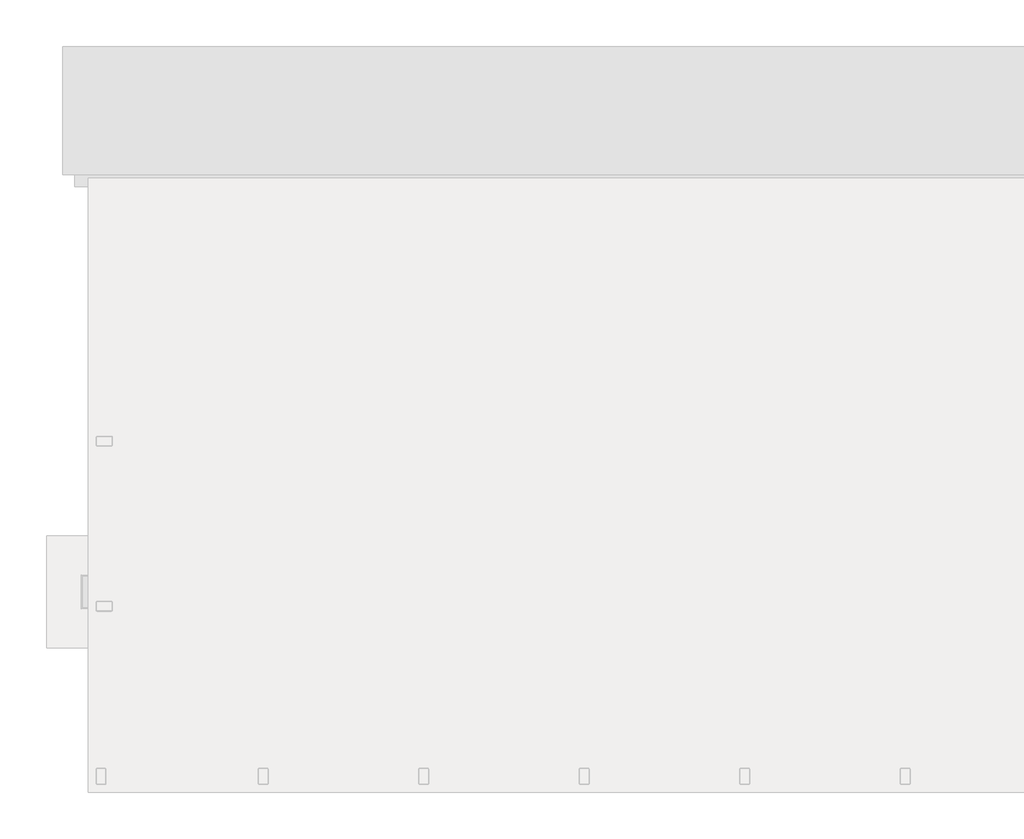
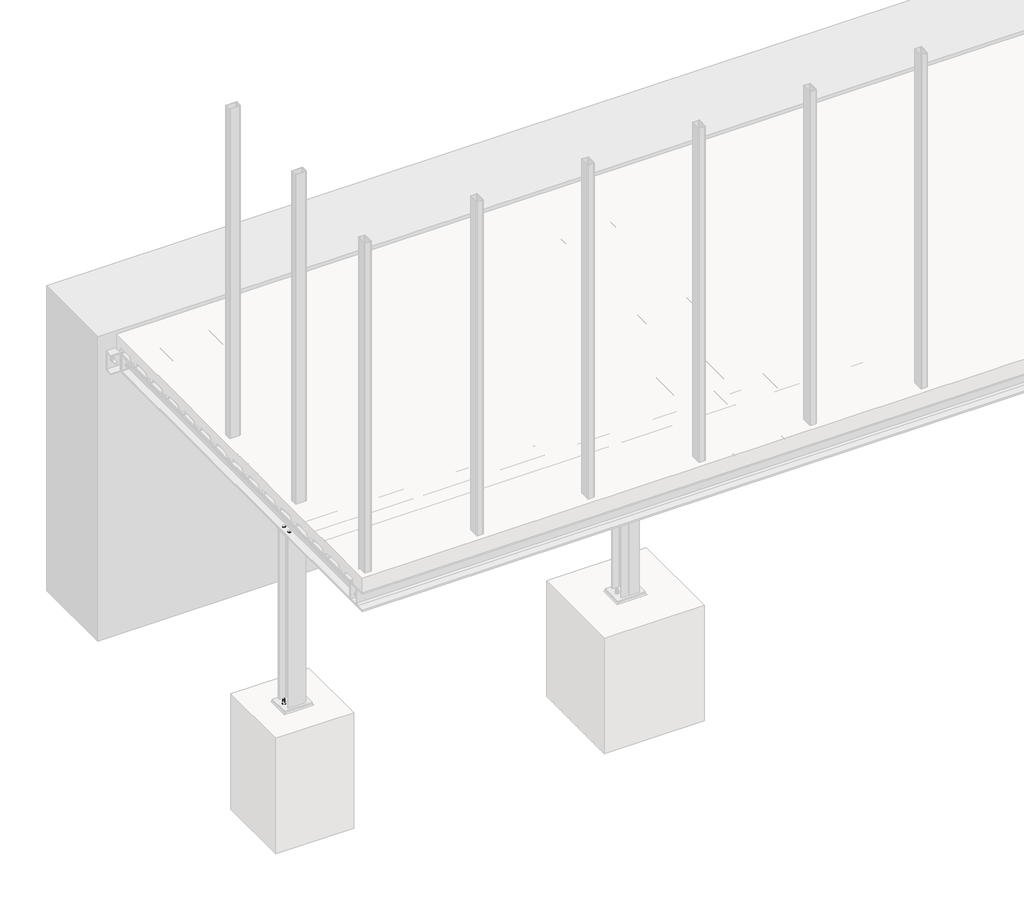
# One storey, part 20 of 36: 21 assemblies.
"""IFC4 building model written with IfcOpenShell, lengths in millimetres."""

from ifc_helpers import new_model, si_unit, point, frame, frame_2d, origin, place, context, project, spatial, polyline, circle_curve, trimmed, segment, composite_curve, outline, extrude, element, save

model = new_model("IFC4")

# Units and contexts
model_context = context("Model", 3, world=origin())
ifc_project = project(units=[si_unit("LENGTHUNIT", "METRE", prefix="MILLI")], contexts=[model_context])

# Site, building, storey
site = spatial("IfcSite", under=ifc_project)
building = spatial("IfcBuilding", under=site)
storey = spatial("IfcBuildingStorey", under=building, Name="Základy", Elevation=-1200.0)

# Assemblies
placement = place(None, origin())
element("IfcElementAssembly", 1, at=placement, inside=storey, context=model_context, shape_type="SweptSolid", body=[
    extrude(outline(composite_curve([segment(polyline([(3073.6, 60.0), (3026.4, 60.0)]), True, "CONTINUOUS"), segment(trimmed(circle_curve(frame_2d((3026.4, 66.4)), 6.4), [point((3026.4, 60.0))], [point((3020.0, 66.4))], False, "CARTESIAN"), True, "CONTINUOUS"), segment(polyline([(3020.0, 66.4), (3020.0, 153.6)]), True, "CONTINUOUS"), segment(trimmed(circle_curve(frame_2d((3026.4, 153.6)), 6.4), [point((3020.0, 153.6))], [point((3026.4, 160.0))], False, "CARTESIAN"), True, "CONTINUOUS"), segment(polyline([(3026.4, 160.0), (3073.6, 160.0)]), True, "CONTINUOUS"), segment(trimmed(circle_curve(frame_2d((3073.6, 153.6)), 6.4), [point((3073.6, 160.0))], [point((3080.0, 153.6))], False, "CARTESIAN"), True, "CONTINUOUS"), segment(polyline([(3080.0, 153.6), (3080.0, 66.4)]), True, "CONTINUOUS"), segment(trimmed(circle_curve(frame_2d((3073.6, 66.4)), 6.4), [point((3080.0, 66.4))], [point((3073.6, 60.0))], False, "CARTESIAN"), True, "CONTINUOUS")], self_intersect=False), holes=[composite_curve([segment(trimmed(circle_curve(frame_2d((3073.6, 66.4)), 3.2), [point((3073.6, 63.2))], [point((3076.8, 66.4))], True, "CARTESIAN"), True, "CONTINUOUS"), segment(polyline([(3076.8, 66.4), (3076.8, 153.6)]), True, "CONTINUOUS"), segment(trimmed(circle_curve(frame_2d((3073.6, 153.6)), 3.2), [point((3076.8, 153.6))], [point((3073.6, 156.8))], True, "CARTESIAN"), True, "CONTINUOUS"), segment(polyline([(3073.6, 156.8), (3026.4, 156.8)]), True, "CONTINUOUS"), segment(trimmed(circle_curve(frame_2d((3026.4, 153.6)), 3.2), [point((3026.4, 156.8))], [point((3023.2, 153.6))], True, "CARTESIAN"), True, "CONTINUOUS"), segment(polyline([(3023.2, 153.6), (3023.2, 66.4)]), True, "CONTINUOUS"), segment(trimmed(circle_curve(frame_2d((3026.4, 66.4)), 3.2), [point((3023.2, 66.4))], [point((3026.4, 63.2))], True, "CARTESIAN"), True, "CONTINUOUS"), segment(polyline([(3026.4, 63.2), (3073.6, 63.2)]), True, "CONTINUOUS")], self_intersect=False)]), frame((0.0, 0.0, -160.0), z_axis=(0.0, 0.0, 1.0), x_axis=(1.0, 0.0, 0.0)), (0.0, 0.0, 1.0), 3320.0),
])
element("IfcElementAssembly", 2, at=placement, inside=storey, context=model_context, shape_type="SweptSolid", body=[
    extrude(outline(polyline([(1802.7875602, -160.0099992), (1772.2875602, -111.5000008), (1637.6975638, -111.5000008), (1607.1975638, -160.0000008), (1552.7875754, -160.0000008), (1522.2875754, -111.5000008), (1387.6975715, -111.5000008), (1357.1975715, -160.0000008), (1302.7875697, -160.0000008), (1272.2875716, -111.5000008), (1137.6975638, -111.5000008), (1107.1975638, -160.0000008), (1052.7875602, -160.0000008), (1022.2875602, -111.5000008), (887.6975638, -111.5000008), (857.1975638, -160.0000008), (802.7875602, -160.0000008), (790.7375724, -139.4300002), (803.1975638, -159.2500008), (856.7875602, -159.2500008), (887.2875602, -110.7500008), (1022.6975638, -110.7500008), (1053.1975638, -159.2500008), (1106.7875754, -159.2500008), (1137.2875754, -110.7500008), (1272.6975715, -110.7500008), (1303.1975695, -159.2500008), (1356.7875716, -159.2500008), (1387.2875678, -110.7500008), (1522.6975638, -110.7500008), (1553.1975638, -159.2500008), (1606.7875602, -159.2500008), (1637.2875602, -110.7500008), (1772.6975638, -110.7500008), (1803.1975638, -159.2500008), (1839.9975821, -160.0000008), (1802.7875602, -160.0099992)])), frame((-40.0, 0.0, 0.0), z_axis=(1.0, 0.0, 0.0), x_axis=(0.0, 1.0, 0.0)), (0.0, 0.0, 1.0), 3180.0),
])
element("IfcElementAssembly", 3, at=placement, inside=storey, context=model_context, shape_type="SweptSolid", body=[
    extrude(outline(polyline([(3500.0, 1710.0), (3500.0, 810.0), (2600.0, 810.0), (2600.0, 1710.0), (3500.0, 1710.0)])), frame((0.0, 0.0, -3100.0), z_axis=(0.0, 0.0, 1.0), x_axis=(1.0, 0.0, 0.0)), (0.0, 0.0, 1.0), 1100.0),
])
element("IfcElementAssembly", 4, at=placement, inside=storey, context=model_context, shape_type="SweptSolid", body=[
    extrude(outline(composite_curve([segment(polyline([(2073.6, 60.0), (2026.4, 60.0)]), True, "CONTINUOUS"), segment(trimmed(circle_curve(frame_2d((2026.4, 66.4)), 6.4), [point((2026.4, 60.0))], [point((2020.0, 66.4))], False, "CARTESIAN"), True, "CONTINUOUS"), segment(polyline([(2020.0, 66.4), (2020.0, 153.6)]), True, "CONTINUOUS"), segment(trimmed(circle_curve(frame_2d((2026.4, 153.6)), 6.4), [point((2020.0, 153.6))], [point((2026.4, 160.0))], False, "CARTESIAN"), True, "CONTINUOUS"), segment(polyline([(2026.4, 160.0), (2073.6, 160.0)]), True, "CONTINUOUS"), segment(trimmed(circle_curve(frame_2d((2073.6, 153.6)), 6.4), [point((2073.6, 160.0))], [point((2080.0, 153.6))], False, "CARTESIAN"), True, "CONTINUOUS"), segment(polyline([(2080.0, 153.6), (2080.0, 66.4)]), True, "CONTINUOUS"), segment(trimmed(circle_curve(frame_2d((2073.6, 66.4)), 6.4), [point((2080.0, 66.4))], [point((2073.6, 60.0))], False, "CARTESIAN"), True, "CONTINUOUS")], self_intersect=False), holes=[composite_curve([segment(trimmed(circle_curve(frame_2d((2073.6, 66.4)), 3.2), [point((2073.6, 63.2))], [point((2076.8, 66.4))], True, "CARTESIAN"), True, "CONTINUOUS"), segment(polyline([(2076.8, 66.4), (2076.8, 153.6)]), True, "CONTINUOUS"), segment(trimmed(circle_curve(frame_2d((2073.6, 153.6)), 3.2), [point((2076.8, 153.6))], [point((2073.6, 156.8))], True, "CARTESIAN"), True, "CONTINUOUS"), segment(polyline([(2073.6, 156.8), (2026.4, 156.8)]), True, "CONTINUOUS"), segment(trimmed(circle_curve(frame_2d((2026.4, 153.6)), 3.2), [point((2026.4, 156.8))], [point((2023.2, 153.6))], True, "CARTESIAN"), True, "CONTINUOUS"), segment(polyline([(2023.2, 153.6), (2023.2, 66.4)]), True, "CONTINUOUS"), segment(trimmed(circle_curve(frame_2d((2026.4, 66.4)), 3.2), [point((2023.2, 66.4))], [point((2026.4, 63.2))], True, "CARTESIAN"), True, "CONTINUOUS"), segment(polyline([(2026.4, 63.2), (2073.6, 63.2)]), True, "CONTINUOUS")], self_intersect=False)]), frame((0.0, 0.0, -160.0), z_axis=(0.0, 0.0, 1.0), x_axis=(1.0, 0.0, 0.0)), (0.0, 0.0, 1.0), 3320.0),
])
element("IfcElementAssembly", 5, at=placement, inside=storey, context=model_context, shape_type="SweptSolid", body=[
    extrude(outline(composite_curve([segment(polyline([(1200.0, -193.0), (1320.0, -193.0), (1320.0, -201.0), (1274.5, -201.0)]), True, "CONTINUOUS"), segment(trimmed(circle_curve(frame_2d((1274.5, -213.0)), 12.0), [point((1274.5, -201.0))], [point((1262.5, -213.0))], True, "CARTESIAN"), True, "CONTINUOUS"), segment(polyline([(1262.5, -213.0), (1262.5, -287.0)]), True, "CONTINUOUS"), segment(trimmed(circle_curve(frame_2d((1274.5, -287.0)), 12.0), [point((1262.5, -287.0))], [point((1274.5, -299.0))], True, "CARTESIAN"), True, "CONTINUOUS"), segment(polyline([(1274.5, -299.0), (1320.0, -299.0), (1320.0, -307.0), (1200.0, -307.0), (1200.0, -299.0), (1245.5, -299.0)]), True, "CONTINUOUS"), segment(trimmed(circle_curve(frame_2d((1245.5, -287.0)), 12.0), [point((1245.5, -299.0))], [point((1257.5, -287.0))], True, "CARTESIAN"), True, "CONTINUOUS"), segment(polyline([(1257.5, -287.0), (1257.5, -213.0)]), True, "CONTINUOUS"), segment(trimmed(circle_curve(frame_2d((1245.5, -213.0)), 12.0), [point((1257.5, -213.0))], [point((1245.5, -201.0))], True, "CARTESIAN"), True, "CONTINUOUS"), segment(polyline([(1245.5, -201.0), (1200.0, -201.0), (1200.0, -193.0)]), True, "CONTINUOUS")], self_intersect=False)), frame((160.0, 0.0, 0.0), z_axis=(1.0, 0.0, 0.0), x_axis=(0.0, 1.0, 0.0)), (0.0, 0.0, 1.0), 2780.0),
    extrude(outline(polyline([(2940.0, 1200.0), (2940.0, 1320.0), (2950.0, 1320.0), (2950.0, 1200.0), (2940.0, 1200.0)])), frame((0.0, 0.0, -299.0), z_axis=(0.0, 0.0, 1.0), x_axis=(1.0, 0.0, 0.0)), (0.0, 0.0, 1.0), 98.0),
    extrude(outline(polyline([(150.0, 1200.0), (150.0, 1320.0), (160.0, 1320.0), (160.0, 1200.0), (150.0, 1200.0)])), frame((0.0, 0.0, -299.0), z_axis=(0.0, 0.0, 1.0), x_axis=(1.0, 0.0, 0.0)), (0.0, 0.0, 1.0), 98.0),
])
element("IfcElementAssembly", 6, at=placement, inside=storey, context=model_context, shape_type="SweptSolid", body=[
    extrude(outline(composite_curve([segment(trimmed(circle_curve(frame_2d((-49.0, 777.5)), 4.0), [point((-49.0, 773.5))], [point((-49.0, 781.5))], False, "CARTESIAN"), True, "CONTINUOUS"), segment(trimmed(circle_curve(frame_2d((-49.0, 777.5)), 4.0), [point((-49.0, 781.5))], [point((-49.0, 773.5))], False, "CARTESIAN"), True, "CONTINUOUS")], self_intersect=False)), frame((0.0, 35.0, 0.0), z_axis=(0.0, 1.0, 0.0), x_axis=(0.0, 0.0, 1.0)), (0.0, 0.0, 1.0), 3780.0),
])
element("IfcElementAssembly", 7, at=placement, inside=storey, context=model_context, shape_type="SweptSolid", body=[
    extrude(outline(composite_curve([segment(trimmed(circle_curve(frame_2d((-49.0, 927.5)), 4.0), [point((-49.0, 923.5))], [point((-49.0, 931.5))], False, "CARTESIAN"), True, "CONTINUOUS"), segment(trimmed(circle_curve(frame_2d((-49.0, 927.5)), 4.0), [point((-49.0, 931.5))], [point((-49.0, 923.5))], False, "CARTESIAN"), True, "CONTINUOUS")], self_intersect=False)), frame((0.0, 35.0, 0.0), z_axis=(0.0, 1.0, 0.0), x_axis=(0.0, 0.0, 1.0)), (0.0, 0.0, 1.0), 3780.0),
])
element("IfcElementAssembly", 8, at=placement, inside=storey, context=model_context, shape_type="SweptSolid", body=[
    extrude(outline(composite_curve([segment(trimmed(circle_curve(frame_2d((-49.0, 1077.5)), 4.0), [point((-49.0, 1073.5))], [point((-49.0, 1081.5))], False, "CARTESIAN"), True, "CONTINUOUS"), segment(trimmed(circle_curve(frame_2d((-49.0, 1077.5)), 4.0), [point((-49.0, 1081.5))], [point((-49.0, 1073.5))], False, "CARTESIAN"), True, "CONTINUOUS")], self_intersect=False)), frame((0.0, 35.0, 0.0), z_axis=(0.0, 1.0, 0.0), x_axis=(0.0, 0.0, 1.0)), (0.0, 0.0, 1.0), 3780.0),
])
element("IfcElementAssembly", 9, at=placement, inside=storey, context=model_context, shape_type="SweptSolid", body=[
    extrude(outline(composite_curve([segment(trimmed(circle_curve(frame_2d((-49.0, 1227.5)), 4.0), [point((-49.0, 1223.5))], [point((-49.0, 1231.5))], False, "CARTESIAN"), True, "CONTINUOUS"), segment(trimmed(circle_curve(frame_2d((-49.0, 1227.5)), 4.0), [point((-49.0, 1231.5))], [point((-49.0, 1223.5))], False, "CARTESIAN"), True, "CONTINUOUS")], self_intersect=False)), frame((0.0, 35.0, 0.0), z_axis=(0.0, 1.0, 0.0), x_axis=(0.0, 0.0, 1.0)), (0.0, 0.0, 1.0), 3780.0),
])
element("IfcElementAssembly", 10, at=placement, inside=storey, context=model_context, shape_type="SweptSolid", body=[
    extrude(outline(composite_curve([segment(trimmed(circle_curve(frame_2d((-49.0, 1377.5)), 4.0), [point((-49.0, 1373.5))], [point((-49.0, 1381.5))], False, "CARTESIAN"), True, "CONTINUOUS"), segment(trimmed(circle_curve(frame_2d((-49.0, 1377.5)), 4.0), [point((-49.0, 1381.5))], [point((-49.0, 1373.5))], False, "CARTESIAN"), True, "CONTINUOUS")], self_intersect=False)), frame((0.0, 35.0, 0.0), z_axis=(0.0, 1.0, 0.0), x_axis=(0.0, 0.0, 1.0)), (0.0, 0.0, 1.0), 3780.0),
])
element("IfcElementAssembly", 11, at=placement, inside=storey, context=model_context, shape_type="SweptSolid", body=[
    extrude(outline(composite_curve([segment(trimmed(circle_curve(frame_2d((-49.0, 1527.5)), 4.0), [point((-49.0, 1523.5))], [point((-49.0, 1531.5))], False, "CARTESIAN"), True, "CONTINUOUS"), segment(trimmed(circle_curve(frame_2d((-49.0, 1527.5)), 4.0), [point((-49.0, 1531.5))], [point((-49.0, 1523.5))], False, "CARTESIAN"), True, "CONTINUOUS")], self_intersect=False)), frame((0.0, 35.0, 0.0), z_axis=(0.0, 1.0, 0.0), x_axis=(0.0, 0.0, 1.0)), (0.0, 0.0, 1.0), 3780.0),
])
element("IfcElementAssembly", 12, at=placement, inside=storey, context=model_context, shape_type="SweptSolid", body=[
    extrude(outline(composite_curve([segment(trimmed(circle_curve(frame_2d((-49.0, 1677.5)), 4.0), [point((-49.0, 1673.5))], [point((-49.0, 1681.5))], False, "CARTESIAN"), True, "CONTINUOUS"), segment(trimmed(circle_curve(frame_2d((-49.0, 1677.5)), 4.0), [point((-49.0, 1681.5))], [point((-49.0, 1673.5))], False, "CARTESIAN"), True, "CONTINUOUS")], self_intersect=False)), frame((0.0, 35.0, 0.0), z_axis=(0.0, 1.0, 0.0), x_axis=(0.0, 0.0, 1.0)), (0.0, 0.0, 1.0), 3780.0),
])
element("IfcElementAssembly", 13, at=placement, inside=storey, context=model_context, shape_type="SweptSolid", body=[
    extrude(outline(composite_curve([segment(trimmed(circle_curve(frame_2d((-49.0, 1827.5)), 4.0), [point((-49.0, 1823.5))], [point((-49.0, 1831.5))], False, "CARTESIAN"), True, "CONTINUOUS"), segment(trimmed(circle_curve(frame_2d((-49.0, 1827.5)), 4.0), [point((-49.0, 1831.5))], [point((-49.0, 1823.5))], False, "CARTESIAN"), True, "CONTINUOUS")], self_intersect=False)), frame((0.0, 35.0, 0.0), z_axis=(0.0, 1.0, 0.0), x_axis=(0.0, 0.0, 1.0)), (0.0, 0.0, 1.0), 3780.0),
])
element("IfcElementAssembly", 14, at=placement, inside=storey, context=model_context, shape_type="SweptSolid", body=[
    extrude(outline(composite_curve([segment(trimmed(circle_curve(frame_2d((-49.0, 1977.5)), 4.0), [point((-49.0, 1973.5))], [point((-49.0, 1981.5))], False, "CARTESIAN"), True, "CONTINUOUS"), segment(trimmed(circle_curve(frame_2d((-49.0, 1977.5)), 4.0), [point((-49.0, 1981.5))], [point((-49.0, 1973.5))], False, "CARTESIAN"), True, "CONTINUOUS")], self_intersect=False)), frame((0.0, 35.0, 0.0), z_axis=(0.0, 1.0, 0.0), x_axis=(0.0, 0.0, 1.0)), (0.0, 0.0, 1.0), 3780.0),
])
element("IfcElementAssembly", 15, at=placement, inside=storey, context=model_context, shape_type="SweptSolid", body=[
    extrude(outline(composite_curve([segment(trimmed(circle_curve(frame_2d((-49.0, 2127.5)), 4.0), [point((-49.0, 2123.5))], [point((-49.0, 2131.5))], False, "CARTESIAN"), True, "CONTINUOUS"), segment(trimmed(circle_curve(frame_2d((-49.0, 2127.5)), 4.0), [point((-49.0, 2131.5))], [point((-49.0, 2123.5))], False, "CARTESIAN"), True, "CONTINUOUS")], self_intersect=False)), frame((0.0, 35.0, 0.0), z_axis=(0.0, 1.0, 0.0), x_axis=(0.0, 0.0, 1.0)), (0.0, 0.0, 1.0), 3780.0),
])
element("IfcElementAssembly", 16, at=placement, inside=storey, context=model_context, shape_type="SweptSolid", body=[
    extrude(outline(composite_curve([segment(trimmed(circle_curve(frame_2d((-49.0, 2277.5)), 4.0), [point((-49.0, 2273.5))], [point((-49.0, 2281.5))], False, "CARTESIAN"), True, "CONTINUOUS"), segment(trimmed(circle_curve(frame_2d((-49.0, 2277.5)), 4.0), [point((-49.0, 2281.5))], [point((-49.0, 2273.5))], False, "CARTESIAN"), True, "CONTINUOUS")], self_intersect=False)), frame((0.0, 35.0, 0.0), z_axis=(0.0, 1.0, 0.0), x_axis=(0.0, 0.0, 1.0)), (0.0, 0.0, 1.0), 3780.0),
])
element("IfcElementAssembly", 17, at=placement, inside=storey, context=model_context, shape_type="SweptSolid", body=[
    extrude(outline(composite_curve([segment(trimmed(circle_curve(frame_2d((-49.0, 2427.5)), 4.0), [point((-49.0, 2423.5))], [point((-49.0, 2431.5))], False, "CARTESIAN"), True, "CONTINUOUS"), segment(trimmed(circle_curve(frame_2d((-49.0, 2427.5)), 4.0), [point((-49.0, 2431.5))], [point((-49.0, 2423.5))], False, "CARTESIAN"), True, "CONTINUOUS")], self_intersect=False)), frame((0.0, 35.0, 0.0), z_axis=(0.0, 1.0, 0.0), x_axis=(0.0, 0.0, 1.0)), (0.0, 0.0, 1.0), 3780.0),
])
element("IfcElementAssembly", 18, at=placement, inside=storey, context=model_context, shape_type="SweptSolid", body=[
    extrude(outline(composite_curve([segment(trimmed(circle_curve(frame_2d((-49.0, 2577.5)), 4.0), [point((-49.0, 2573.5))], [point((-49.0, 2581.5))], False, "CARTESIAN"), True, "CONTINUOUS"), segment(trimmed(circle_curve(frame_2d((-49.0, 2577.5)), 4.0), [point((-49.0, 2581.5))], [point((-49.0, 2573.5))], False, "CARTESIAN"), True, "CONTINUOUS")], self_intersect=False)), frame((0.0, 35.0, 0.0), z_axis=(0.0, 1.0, 0.0), x_axis=(0.0, 0.0, 1.0)), (0.0, 0.0, 1.0), 3780.0),
])
element("IfcElementAssembly", 19, at=placement, inside=storey, context=model_context, shape_type="SweptSolid", body=[
    extrude(outline(composite_curve([segment(trimmed(circle_curve(frame_2d((-49.0, 2727.5)), 4.0), [point((-49.0, 2723.5))], [point((-49.0, 2731.5))], False, "CARTESIAN"), True, "CONTINUOUS"), segment(trimmed(circle_curve(frame_2d((-49.0, 2727.5)), 4.0), [point((-49.0, 2731.5))], [point((-49.0, 2723.5))], False, "CARTESIAN"), True, "CONTINUOUS")], self_intersect=False)), frame((0.0, 35.0, 0.0), z_axis=(0.0, 1.0, 0.0), x_axis=(0.0, 0.0, 1.0)), (0.0, 0.0, 1.0), 3780.0),
])
element("IfcElementAssembly", 20, at=placement, inside=storey, context=model_context, shape_type="SweptSolid", body=[
    extrude(outline(composite_curve([segment(trimmed(circle_curve(frame_2d((-49.0, 2877.5)), 4.0), [point((-49.0, 2873.5))], [point((-49.0, 2881.5))], False, "CARTESIAN"), True, "CONTINUOUS"), segment(trimmed(circle_curve(frame_2d((-49.0, 2877.5)), 4.0), [point((-49.0, 2881.5))], [point((-49.0, 2873.5))], False, "CARTESIAN"), True, "CONTINUOUS")], self_intersect=False)), frame((0.0, 35.0, 0.0), z_axis=(0.0, 1.0, 0.0), x_axis=(0.0, 0.0, 1.0)), (0.0, 0.0, 1.0), 3780.0),
])
element("IfcElementAssembly", 21, at=placement, inside=storey, context=model_context, shape_type="SweptSolid", body=[
    extrude(outline(composite_curve([segment(polyline([(130.0, 1184.0), (-30.0, 1184.0), (-30.0, 1193.0), (32.0, 1193.0)]), True, "CONTINUOUS"), segment(trimmed(circle_curve(frame_2d((32.0, 1208.0)), 15.0), [point((32.0, 1193.0))], [point((47.0, 1208.0))], True, "CARTESIAN"), True, "CONTINUOUS"), segment(polyline([(47.0, 1208.0), (47.0, 1312.0)]), True, "CONTINUOUS"), segment(trimmed(circle_curve(frame_2d((32.0, 1312.0)), 15.0), [point((47.0, 1312.0))], [point((32.0, 1327.0))], True, "CARTESIAN"), True, "CONTINUOUS"), segment(polyline([(32.0, 1327.0), (-30.0, 1327.0), (-30.0, 1336.0), (130.0, 1336.0), (130.0, 1327.0), (68.0, 1327.0)]), True, "CONTINUOUS"), segment(trimmed(circle_curve(frame_2d((68.0, 1312.0)), 15.0), [point((68.0, 1327.0))], [point((53.0, 1312.0))], True, "CARTESIAN"), True, "CONTINUOUS"), segment(polyline([(53.0, 1312.0), (53.0, 1208.0)]), True, "CONTINUOUS"), segment(trimmed(circle_curve(frame_2d((68.0, 1208.0)), 15.0), [point((53.0, 1208.0))], [point((68.0, 1193.0))], True, "CARTESIAN"), True, "CONTINUOUS"), segment(polyline([(68.0, 1193.0), (130.0, 1193.0), (130.0, 1184.0)]), True, "CONTINUOUS")], self_intersect=False)), frame((0.0, 0.0, -1975.0), z_axis=(0.0, 0.0, 1.0), x_axis=(1.0, 0.0, 0.0)), (0.0, 0.0, 1.0), 1625.0),
    extrude(outline(polyline([(175.0, 1356.0), (175.0, 1164.0), (-75.0, 1164.0), (-75.0, 1356.0), (175.0, 1356.0)])), frame((0.0, 0.0, -1990.0), z_axis=(0.0, 0.0, 1.0), x_axis=(1.0, 0.0, 0.0)), (0.0, 0.0, 1.0), 15.0),
    extrude(outline(polyline([(140.0, 1346.0), (140.0, 1174.0), (-40.0, 1174.0), (-40.0, 1346.0), (140.0, 1346.0)])), frame((0.0, 0.0, -350.0), z_axis=(0.0, 0.0, 1.0), x_axis=(1.0, 0.0, 0.0)), (0.0, 0.0, 1.0), 10.0),
    extrude(outline(composite_curve([segment(trimmed(circle_curve(frame_2d((0.0, 1220.0)), 6.5), [point((6.5, 1220.0))], [point((-6.5, 1220.0))], False, "CARTESIAN"), True, "CONTINUOUS"), segment(trimmed(circle_curve(frame_2d((0.0, 1220.0)), 6.5), [point((-6.5, 1220.0))], [point((6.5, 1220.0))], False, "CARTESIAN"), True, "CONTINUOUS")], self_intersect=False)), frame((0.0, 0.0, -350.0), z_axis=(0.0, 0.0, 1.0), x_axis=(1.0, 0.0, 0.0)), (0.0, 0.0, 1.0), 10.1),
    extrude(outline(polyline([(10.3923048, 1220.0), (5.1961524, 1211.0), (-5.1961524, 1211.0), (-10.3923048, 1220.0), (-5.1961524, 1229.0), (5.1961524, 1229.0), (10.3923048, 1220.0)])), frame((0.0, 0.0, -323.5), z_axis=(0.0, 0.0, 1.0), x_axis=(1.0, 0.0, 0.0)), (0.0, 0.0, 1.0), 7.5),
    extrude(outline(composite_curve([segment(trimmed(circle_curve(frame_2d((0.0, 1220.0)), 6.0), [point((6.0, 1220.0))], [point((-6.0, 1220.0))], False, "CARTESIAN"), True, "CONTINUOUS"), segment(trimmed(circle_curve(frame_2d((0.0, 1220.0)), 6.0), [point((-6.0, 1220.0))], [point((6.0, 1220.0))], False, "CARTESIAN"), True, "CONTINUOUS")], self_intersect=False)), frame((0.0, 0.0, -368.5), z_axis=(0.0, 0.0, 1.0), x_axis=(1.0, 0.0, 0.0)), (0.0, 0.0, 1.0), 45.0),
    extrude(outline(composite_curve([segment(trimmed(circle_curve(frame_2d((0.0, 1220.0)), 12.0), [point((12.0, 1220.0))], [point((-12.0, 1220.0))], False, "CARTESIAN"), True, "CONTINUOUS"), segment(trimmed(circle_curve(frame_2d((0.0, 1220.0)), 12.0), [point((-12.0, 1220.0))], [point((12.0, 1220.0))], False, "CARTESIAN"), True, "CONTINUOUS")], self_intersect=False)), frame((0.0, 0.0, -326.0), z_axis=(0.0, 0.0, 1.0), x_axis=(1.0, 0.0, 0.0)), (0.0, 0.0, 1.0), 2.5),
    extrude(outline(composite_curve([segment(trimmed(circle_curve(frame_2d((0.0, 1220.0)), 12.0), [point((12.0, 1220.0))], [point((-12.0, 1220.0))], False, "CARTESIAN"), True, "CONTINUOUS"), segment(trimmed(circle_curve(frame_2d((0.0, 1220.0)), 12.0), [point((-12.0, 1220.0))], [point((12.0, 1220.0))], False, "CARTESIAN"), True, "CONTINUOUS")], self_intersect=False)), frame((0.0, 0.0, -352.5), z_axis=(0.0, 0.0, 1.0), x_axis=(1.0, 0.0, 0.0)), (0.0, 0.0, 1.0), 2.5),
    extrude(outline(polyline([(10.9696551, 1220.0), (5.4848276, 1210.5), (-5.4848276, 1210.5), (-10.9696551, 1220.0), (-5.4848276, 1229.5), (5.4848276, 1229.5), (10.9696551, 1220.0)])), frame((0.0, 0.0, -362.5), z_axis=(0.0, 0.0, 1.0), x_axis=(1.0, 0.0, 0.0)), (0.0, 0.0, 1.0), 10.0),
    extrude(outline(composite_curve([segment(trimmed(circle_curve(frame_2d((0.0, 1220.0)), 6.5), [point((6.5, 1220.0))], [point((-6.5, 1220.0))], False, "CARTESIAN"), True, "CONTINUOUS"), segment(trimmed(circle_curve(frame_2d((0.0, 1220.0)), 6.5), [point((-6.5, 1220.0))], [point((6.5, 1220.0))], False, "CARTESIAN"), True, "CONTINUOUS")], self_intersect=False)), frame((0.0, 0.0, -340.1), z_axis=(0.0, 0.0, 1.0), x_axis=(1.0, 0.0, 0.0)), (0.0, 0.0, 1.0), 14.0),
    extrude(outline(composite_curve([segment(trimmed(circle_curve(frame_2d((100.0, 1220.0)), 6.5), [point((106.5, 1220.0))], [point((93.5, 1220.0))], False, "CARTESIAN"), True, "CONTINUOUS"), segment(trimmed(circle_curve(frame_2d((100.0, 1220.0)), 6.5), [point((93.5, 1220.0))], [point((106.5, 1220.0))], False, "CARTESIAN"), True, "CONTINUOUS")], self_intersect=False)), frame((0.0, 0.0, -350.0), z_axis=(0.0, 0.0, 1.0), x_axis=(1.0, 0.0, 0.0)), (0.0, 0.0, 1.0), 10.1),
    extrude(outline(polyline([(110.3923048, 1220.0), (105.1961524, 1211.0), (94.8038476, 1211.0), (89.6076952, 1220.0), (94.8038476, 1229.0), (105.1961524, 1229.0), (110.3923048, 1220.0)])), frame((0.0, 0.0, -323.5), z_axis=(0.0, 0.0, 1.0), x_axis=(1.0, 0.0, 0.0)), (0.0, 0.0, 1.0), 7.5),
    extrude(outline(composite_curve([segment(trimmed(circle_curve(frame_2d((100.0, 1220.0)), 6.0), [point((106.0, 1220.0))], [point((94.0, 1220.0))], False, "CARTESIAN"), True, "CONTINUOUS"), segment(trimmed(circle_curve(frame_2d((100.0, 1220.0)), 6.0), [point((94.0, 1220.0))], [point((106.0, 1220.0))], False, "CARTESIAN"), True, "CONTINUOUS")], self_intersect=False)), frame((0.0, 0.0, -368.5), z_axis=(0.0, 0.0, 1.0), x_axis=(1.0, 0.0, 0.0)), (0.0, 0.0, 1.0), 45.0),
    extrude(outline(composite_curve([segment(trimmed(circle_curve(frame_2d((100.0, 1220.0)), 12.0), [point((112.0, 1220.0))], [point((88.0, 1220.0))], False, "CARTESIAN"), True, "CONTINUOUS"), segment(trimmed(circle_curve(frame_2d((100.0, 1220.0)), 12.0), [point((88.0, 1220.0))], [point((112.0, 1220.0))], False, "CARTESIAN"), True, "CONTINUOUS")], self_intersect=False)), frame((0.0, 0.0, -326.0), z_axis=(0.0, 0.0, 1.0), x_axis=(1.0, 0.0, 0.0)), (0.0, 0.0, 1.0), 2.5),
    extrude(outline(composite_curve([segment(trimmed(circle_curve(frame_2d((100.0, 1220.0)), 12.0), [point((112.0, 1220.0))], [point((88.0, 1220.0))], False, "CARTESIAN"), True, "CONTINUOUS"), segment(trimmed(circle_curve(frame_2d((100.0, 1220.0)), 12.0), [point((88.0, 1220.0))], [point((112.0, 1220.0))], False, "CARTESIAN"), True, "CONTINUOUS")], self_intersect=False)), frame((0.0, 0.0, -352.5), z_axis=(0.0, 0.0, 1.0), x_axis=(1.0, 0.0, 0.0)), (0.0, 0.0, 1.0), 2.5),
    extrude(outline(polyline([(110.9696551, 1220.0), (105.4848276, 1210.5), (94.5151724, 1210.5), (89.0303449, 1220.0), (94.5151724, 1229.5), (105.4848276, 1229.5), (110.9696551, 1220.0)])), frame((0.0, 0.0, -362.5), z_axis=(0.0, 0.0, 1.0), x_axis=(1.0, 0.0, 0.0)), (0.0, 0.0, 1.0), 10.0),
    extrude(outline(composite_curve([segment(trimmed(circle_curve(frame_2d((100.0, 1220.0)), 6.5), [point((106.5, 1220.0))], [point((93.5, 1220.0))], False, "CARTESIAN"), True, "CONTINUOUS"), segment(trimmed(circle_curve(frame_2d((100.0, 1220.0)), 6.5), [point((93.5, 1220.0))], [point((106.5, 1220.0))], False, "CARTESIAN"), True, "CONTINUOUS")], self_intersect=False)), frame((0.0, 0.0, -340.1), z_axis=(0.0, 0.0, 1.0), x_axis=(1.0, 0.0, 0.0)), (0.0, 0.0, 1.0), 14.0),
    extrude(outline(composite_curve([segment(trimmed(circle_curve(frame_2d((0.0, 1300.0)), 6.5), [point((6.5, 1300.0))], [point((-6.5, 1300.0))], False, "CARTESIAN"), True, "CONTINUOUS"), segment(trimmed(circle_curve(frame_2d((0.0, 1300.0)), 6.5), [point((-6.5, 1300.0))], [point((6.5, 1300.0))], False, "CARTESIAN"), True, "CONTINUOUS")], self_intersect=False)), frame((0.0, 0.0, -350.0), z_axis=(0.0, 0.0, 1.0), x_axis=(1.0, 0.0, 0.0)), (0.0, 0.0, 1.0), 10.1),
    extrude(outline(polyline([(10.3923048, 1300.0), (5.1961524, 1291.0), (-5.1961524, 1291.0), (-10.3923048, 1300.0), (-5.1961524, 1309.0), (5.1961524, 1309.0), (10.3923048, 1300.0)])), frame((0.0, 0.0, -323.5), z_axis=(0.0, 0.0, 1.0), x_axis=(1.0, 0.0, 0.0)), (0.0, 0.0, 1.0), 7.5),
    extrude(outline(composite_curve([segment(trimmed(circle_curve(frame_2d((0.0, 1300.0)), 6.0), [point((6.0, 1300.0))], [point((-6.0, 1300.0))], False, "CARTESIAN"), True, "CONTINUOUS"), segment(trimmed(circle_curve(frame_2d((0.0, 1300.0)), 6.0), [point((-6.0, 1300.0))], [point((6.0, 1300.0))], False, "CARTESIAN"), True, "CONTINUOUS")], self_intersect=False)), frame((0.0, 0.0, -368.5), z_axis=(0.0, 0.0, 1.0), x_axis=(1.0, 0.0, 0.0)), (0.0, 0.0, 1.0), 45.0),
    extrude(outline(composite_curve([segment(trimmed(circle_curve(frame_2d((0.0, 1300.0)), 12.0), [point((12.0, 1300.0))], [point((-12.0, 1300.0))], False, "CARTESIAN"), True, "CONTINUOUS"), segment(trimmed(circle_curve(frame_2d((0.0, 1300.0)), 12.0), [point((-12.0, 1300.0))], [point((12.0, 1300.0))], False, "CARTESIAN"), True, "CONTINUOUS")], self_intersect=False)), frame((0.0, 0.0, -326.0), z_axis=(0.0, 0.0, 1.0), x_axis=(1.0, 0.0, 0.0)), (0.0, 0.0, 1.0), 2.5),
    extrude(outline(composite_curve([segment(trimmed(circle_curve(frame_2d((0.0, 1300.0)), 12.0), [point((12.0, 1300.0))], [point((-12.0, 1300.0))], False, "CARTESIAN"), True, "CONTINUOUS"), segment(trimmed(circle_curve(frame_2d((0.0, 1300.0)), 12.0), [point((-12.0, 1300.0))], [point((12.0, 1300.0))], False, "CARTESIAN"), True, "CONTINUOUS")], self_intersect=False)), frame((0.0, 0.0, -352.5), z_axis=(0.0, 0.0, 1.0), x_axis=(1.0, 0.0, 0.0)), (0.0, 0.0, 1.0), 2.5),
    extrude(outline(polyline([(10.9696551, 1300.0), (5.4848276, 1290.5), (-5.4848276, 1290.5), (-10.9696551, 1300.0), (-5.4848276, 1309.5), (5.4848276, 1309.5), (10.9696551, 1300.0)])), frame((0.0, 0.0, -362.5), z_axis=(0.0, 0.0, 1.0), x_axis=(1.0, 0.0, 0.0)), (0.0, 0.0, 1.0), 10.0),
    extrude(outline(composite_curve([segment(trimmed(circle_curve(frame_2d((0.0, 1300.0)), 6.5), [point((6.5, 1300.0))], [point((-6.5, 1300.0))], False, "CARTESIAN"), True, "CONTINUOUS"), segment(trimmed(circle_curve(frame_2d((0.0, 1300.0)), 6.5), [point((-6.5, 1300.0))], [point((6.5, 1300.0))], False, "CARTESIAN"), True, "CONTINUOUS")], self_intersect=False)), frame((0.0, 0.0, -340.1), z_axis=(0.0, 0.0, 1.0), x_axis=(1.0, 0.0, 0.0)), (0.0, 0.0, 1.0), 14.0),
    extrude(outline(composite_curve([segment(trimmed(circle_curve(frame_2d((100.0, 1300.0)), 6.5), [point((106.5, 1300.0))], [point((93.5, 1300.0))], False, "CARTESIAN"), True, "CONTINUOUS"), segment(trimmed(circle_curve(frame_2d((100.0, 1300.0)), 6.5), [point((93.5, 1300.0))], [point((106.5, 1300.0))], False, "CARTESIAN"), True, "CONTINUOUS")], self_intersect=False)), frame((0.0, 0.0, -350.0), z_axis=(0.0, 0.0, 1.0), x_axis=(1.0, 0.0, 0.0)), (0.0, 0.0, 1.0), 10.1),
    extrude(outline(polyline([(110.3923048, 1300.0), (105.1961524, 1291.0), (94.8038476, 1291.0), (89.6076952, 1300.0), (94.8038476, 1309.0), (105.1961524, 1309.0), (110.3923048, 1300.0)])), frame((0.0, 0.0, -323.5), z_axis=(0.0, 0.0, 1.0), x_axis=(1.0, 0.0, 0.0)), (0.0, 0.0, 1.0), 7.5),
    extrude(outline(composite_curve([segment(trimmed(circle_curve(frame_2d((100.0, 1300.0)), 6.0), [point((106.0, 1300.0))], [point((94.0, 1300.0))], False, "CARTESIAN"), True, "CONTINUOUS"), segment(trimmed(circle_curve(frame_2d((100.0, 1300.0)), 6.0), [point((94.0, 1300.0))], [point((106.0, 1300.0))], False, "CARTESIAN"), True, "CONTINUOUS")], self_intersect=False)), frame((0.0, 0.0, -368.5), z_axis=(0.0, 0.0, 1.0), x_axis=(1.0, 0.0, 0.0)), (0.0, 0.0, 1.0), 45.0),
    extrude(outline(composite_curve([segment(trimmed(circle_curve(frame_2d((100.0, 1300.0)), 12.0), [point((112.0, 1300.0))], [point((88.0, 1300.0))], False, "CARTESIAN"), True, "CONTINUOUS"), segment(trimmed(circle_curve(frame_2d((100.0, 1300.0)), 12.0), [point((88.0, 1300.0))], [point((112.0, 1300.0))], False, "CARTESIAN"), True, "CONTINUOUS")], self_intersect=False)), frame((0.0, 0.0, -326.0), z_axis=(0.0, 0.0, 1.0), x_axis=(1.0, 0.0, 0.0)), (0.0, 0.0, 1.0), 2.5),
    extrude(outline(composite_curve([segment(trimmed(circle_curve(frame_2d((100.0, 1300.0)), 12.0), [point((112.0, 1300.0))], [point((88.0, 1300.0))], False, "CARTESIAN"), True, "CONTINUOUS"), segment(trimmed(circle_curve(frame_2d((100.0, 1300.0)), 12.0), [point((88.0, 1300.0))], [point((112.0, 1300.0))], False, "CARTESIAN"), True, "CONTINUOUS")], self_intersect=False)), frame((0.0, 0.0, -352.5), z_axis=(0.0, 0.0, 1.0), x_axis=(1.0, 0.0, 0.0)), (0.0, 0.0, 1.0), 2.5),
    extrude(outline(polyline([(110.9696551, 1300.0), (105.4848276, 1290.5), (94.5151724, 1290.5), (89.0303449, 1300.0), (94.5151724, 1309.5), (105.4848276, 1309.5), (110.9696551, 1300.0)])), frame((0.0, 0.0, -362.5), z_axis=(0.0, 0.0, 1.0), x_axis=(1.0, 0.0, 0.0)), (0.0, 0.0, 1.0), 10.0),
    extrude(outline(composite_curve([segment(trimmed(circle_curve(frame_2d((100.0, 1300.0)), 6.5), [point((106.5, 1300.0))], [point((93.5, 1300.0))], False, "CARTESIAN"), True, "CONTINUOUS"), segment(trimmed(circle_curve(frame_2d((100.0, 1300.0)), 6.5), [point((93.5, 1300.0))], [point((106.5, 1300.0))], False, "CARTESIAN"), True, "CONTINUOUS")], self_intersect=False)), frame((0.0, 0.0, -340.1), z_axis=(0.0, 0.0, 1.0), x_axis=(1.0, 0.0, 0.0)), (0.0, 0.0, 1.0), 14.0),
    extrude(outline(polyline([(-17.2635066, 1260.0), (-21.1317533, 1253.3000002), (-28.8682467, 1253.3000002), (-32.7364934, 1260.0), (-28.8682467, 1266.6999998), (-21.1317533, 1266.6999998), (-17.2635066, 1260.0)])), frame((0.0, 0.0, -2122.0), z_axis=(0.0, 0.0, 1.0), x_axis=(1.0, 0.0, 0.0)), (0.0, 0.0, 1.0), 132.0),
    extrude(outline(composite_curve([segment(trimmed(circle_curve(frame_2d((-25.0, 1260.0)), 8.0), [point((-17.0, 1260.0))], [point((-33.0, 1260.0))], False, "CARTESIAN"), True, "CONTINUOUS"), segment(trimmed(circle_curve(frame_2d((-25.0, 1260.0)), 8.0), [point((-33.0, 1260.0))], [point((-17.0, 1260.0))], False, "CARTESIAN"), True, "CONTINUOUS")], self_intersect=False)), frame((0.0, 0.0, -1990.0), z_axis=(0.0, 0.0, 1.0), x_axis=(1.0, 0.0, 0.0)), (0.0, 0.0, 1.0), 58.0),
    extrude(outline(composite_curve([segment(trimmed(circle_curve(frame_2d((-25.0, 1260.0)), 15.0), [point((-10.0, 1260.0))], [point((-40.0, 1260.0))], False, "CARTESIAN"), True, "CONTINUOUS"), segment(trimmed(circle_curve(frame_2d((-25.0, 1260.0)), 15.0), [point((-40.0, 1260.0))], [point((-10.0, 1260.0))], False, "CARTESIAN"), True, "CONTINUOUS")], self_intersect=False)), frame((0.0, 0.0, -1975.0), z_axis=(0.0, 0.0, 1.0), x_axis=(1.0, 0.0, 0.0)), (0.0, 0.0, 1.0), 3.0),
    extrude(outline(polyline([(-9.5558803, 1260.0), (-17.2779401, 1246.625), (-32.7220599, 1246.625), (-40.4441197, 1260.0), (-32.7220599, 1273.375), (-17.2779401, 1273.375), (-9.5558803, 1260.0)])), frame((0.0, 0.0, -1972.0), z_axis=(0.0, 0.0, 1.0), x_axis=(1.0, 0.0, 0.0)), (0.0, 0.0, 1.0), 13.0),
    extrude(outline(composite_curve([segment(trimmed(circle_curve(frame_2d((-25.0, 1260.0)), 9.0), [point((-16.0, 1260.0))], [point((-34.0, 1260.0))], False, "CARTESIAN"), True, "CONTINUOUS"), segment(trimmed(circle_curve(frame_2d((-25.0, 1260.0)), 9.0), [point((-34.0, 1260.0))], [point((-16.0, 1260.0))], False, "CARTESIAN"), True, "CONTINUOUS")], self_intersect=False)), frame((0.0, 0.0, -1990.0), z_axis=(0.0, 0.0, 1.0), x_axis=(1.0, 0.0, 0.0)), (0.0, 0.0, 1.0), 15.1),
    extrude(outline(polyline([(132.7364934, 1260.0), (128.8682467, 1253.3000002), (121.1317533, 1253.3000002), (117.2635066, 1260.0), (121.1317533, 1266.6999998), (128.8682467, 1266.6999998), (132.7364934, 1260.0)])), frame((0.0, 0.0, -2122.0), z_axis=(0.0, 0.0, 1.0), x_axis=(1.0, 0.0, 0.0)), (0.0, 0.0, 1.0), 132.0),
    extrude(outline(composite_curve([segment(trimmed(circle_curve(frame_2d((125.0, 1260.0)), 8.0), [point((133.0, 1260.0))], [point((117.0, 1260.0))], False, "CARTESIAN"), True, "CONTINUOUS"), segment(trimmed(circle_curve(frame_2d((125.0, 1260.0)), 8.0), [point((117.0, 1260.0))], [point((133.0, 1260.0))], False, "CARTESIAN"), True, "CONTINUOUS")], self_intersect=False)), frame((0.0, 0.0, -1990.0), z_axis=(0.0, 0.0, 1.0), x_axis=(1.0, 0.0, 0.0)), (0.0, 0.0, 1.0), 58.0),
    extrude(outline(composite_curve([segment(trimmed(circle_curve(frame_2d((125.0, 1260.0)), 15.0), [point((140.0, 1260.0))], [point((110.0, 1260.0))], False, "CARTESIAN"), True, "CONTINUOUS"), segment(trimmed(circle_curve(frame_2d((125.0, 1260.0)), 15.0), [point((110.0, 1260.0))], [point((140.0, 1260.0))], False, "CARTESIAN"), True, "CONTINUOUS")], self_intersect=False)), frame((0.0, 0.0, -1975.0), z_axis=(0.0, 0.0, 1.0), x_axis=(1.0, 0.0, 0.0)), (0.0, 0.0, 1.0), 3.0),
    extrude(outline(polyline([(140.4441197, 1260.0), (132.7220599, 1246.625), (117.2779401, 1246.625), (109.5558803, 1260.0), (117.2779401, 1273.375), (132.7220599, 1273.375), (140.4441197, 1260.0)])), frame((0.0, 0.0, -1972.0), z_axis=(0.0, 0.0, 1.0), x_axis=(1.0, 0.0, 0.0)), (0.0, 0.0, 1.0), 13.0),
    extrude(outline(composite_curve([segment(trimmed(circle_curve(frame_2d((125.0, 1260.0)), 9.0), [point((134.0, 1260.0))], [point((116.0, 1260.0))], False, "CARTESIAN"), True, "CONTINUOUS"), segment(trimmed(circle_curve(frame_2d((125.0, 1260.0)), 9.0), [point((116.0, 1260.0))], [point((134.0, 1260.0))], False, "CARTESIAN"), True, "CONTINUOUS")], self_intersect=False)), frame((0.0, 0.0, -1990.0), z_axis=(0.0, 0.0, 1.0), x_axis=(1.0, 0.0, 0.0)), (0.0, 0.0, 1.0), 15.1),
])

save(model, "model.ifc")
